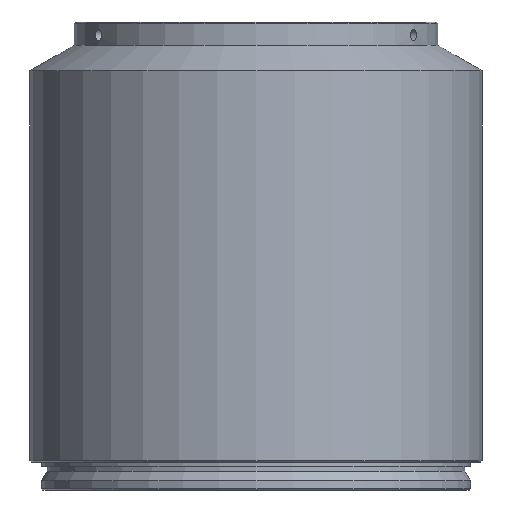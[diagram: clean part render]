
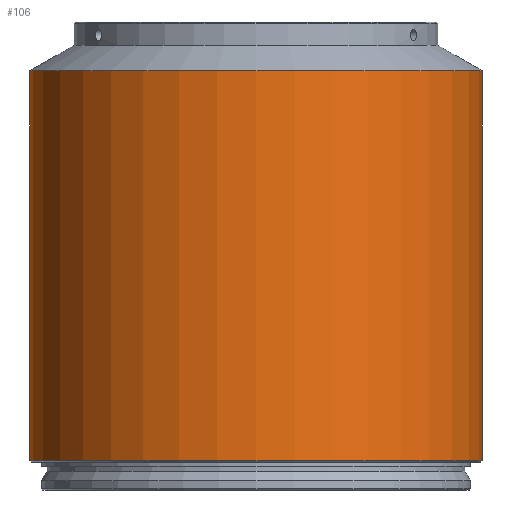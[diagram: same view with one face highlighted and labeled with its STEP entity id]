
A CAD part, front view. The second image highlights one B-rep face of the part: STEP entity #106.
In plain terms, the highlighted cylindrical face has radius 48.5 mm (diameter 97 mm), a partial arc.
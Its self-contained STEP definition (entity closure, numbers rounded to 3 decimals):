
#27 = CARTESIAN_POINT ( 'NONE',  ( -48.5, 0., 140.364 ) ) ;
#71 = DIRECTION ( 'NONE',  ( 1., 0., 0. ) ) ;
#73 = CARTESIAN_POINT ( 'NONE',  ( 48.5, 0., 56.8 ) ) ;
#91 = CARTESIAN_POINT ( 'NONE',  ( -48.5, 0., 179.046 ) ) ;
#93 = EDGE_LOOP ( 'NONE', ( #791, #697, #855, #981 ) ) ;
#97 = VECTOR ( 'NONE', #750, 1000. ) ;
#106 = ADVANCED_FACE ( 'NONE', ( #890 ), #360, .T. ) ;
#162 = CARTESIAN_POINT ( 'NONE',  ( -48.5, 0., 56.8 ) ) ;
#190 = EDGE_CURVE ( 'NONE', #441, #690, #1358, .T. ) ;
#255 = DIRECTION ( 'NONE',  ( 0., 0., 1. ) ) ;
#312 = AXIS2_PLACEMENT_3D ( 'NONE', #789, #255, #1005 ) ;
#320 = CARTESIAN_POINT ( 'NONE',  ( 48.5, 0., 179.046 ) ) ;
#326 = CIRCLE ( 'NONE', #911, 48.5 ) ;
#329 = CIRCLE ( 'NONE', #1114, 48.5 ) ;
#360 = CYLINDRICAL_SURFACE ( 'NONE', #312, 48.5 ) ;
#398 = EDGE_CURVE ( 'NONE', #1192, #718, #425, .T. ) ;
#410 = DIRECTION ( 'NONE',  ( 0., 0., 1. ) ) ;
#425 = LINE ( 'NONE', #320, #97 ) ;
#441 = VERTEX_POINT ( 'NONE', #162 ) ;
#505 = DIRECTION ( 'NONE',  ( 0., 0., 1. ) ) ;
#540 = EDGE_CURVE ( 'NONE', #690, #718, #326, .T. ) ;
#572 = DIRECTION ( 'NONE',  ( 1., 0., 0. ) ) ;
#606 = VECTOR ( 'NONE', #505, 1000. ) ;
#690 = VERTEX_POINT ( 'NONE', #27 ) ;
#697 = ORIENTED_EDGE ( 'NONE', *, *, #939, .T. ) ;
#718 = VERTEX_POINT ( 'NONE', #1148 ) ;
#750 = DIRECTION ( 'NONE',  ( 0., 0., 1. ) ) ;
#789 = CARTESIAN_POINT ( 'NONE',  ( 0., 0., 179.046 ) ) ;
#791 = ORIENTED_EDGE ( 'NONE', *, *, #190, .F. ) ;
#855 = ORIENTED_EDGE ( 'NONE', *, *, #398, .T. ) ;
#890 = FACE_OUTER_BOUND ( 'NONE', #93, .T. ) ;
#911 = AXIS2_PLACEMENT_3D ( 'NONE', #1144, #410, #71 ) ;
#939 = EDGE_CURVE ( 'NONE', #441, #1192, #329, .T. ) ;
#966 = CARTESIAN_POINT ( 'NONE',  ( 0., 0., 56.8 ) ) ;
#981 = ORIENTED_EDGE ( 'NONE', *, *, #540, .F. ) ;
#989 = DIRECTION ( 'NONE',  ( 0., 0., 1. ) ) ;
#1005 = DIRECTION ( 'NONE',  ( 1., 0., 0. ) ) ;
#1114 = AXIS2_PLACEMENT_3D ( 'NONE', #966, #989, #572 ) ;
#1144 = CARTESIAN_POINT ( 'NONE',  ( 0., 0., 140.364 ) ) ;
#1148 = CARTESIAN_POINT ( 'NONE',  ( 48.5, 0., 140.364 ) ) ;
#1192 = VERTEX_POINT ( 'NONE', #73 ) ;
#1358 = LINE ( 'NONE', #91, #606 ) ;
